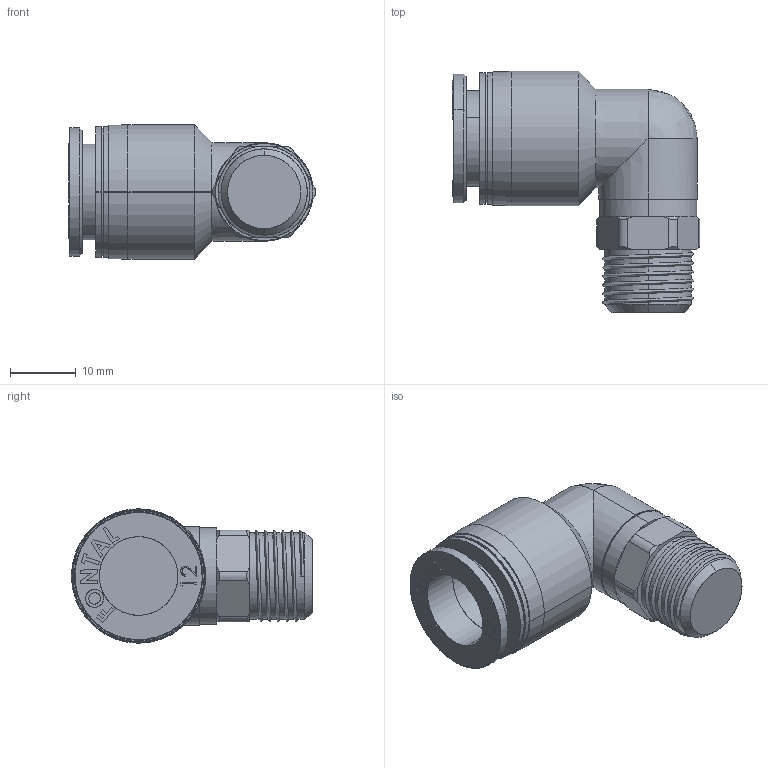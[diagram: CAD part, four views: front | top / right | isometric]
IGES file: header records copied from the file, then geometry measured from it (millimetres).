
Start section: SolidWorks IGES file using analytic representation for surfaces
Global section: file name: D:\Custom\3D繪製\ADDITIONAL\FPL\FPL12-02.IGS,1; native system: 5HSolidWorks 2014; preprocessor: SolidWorks 2014; author: Chieh_Lu; date: 160115.050211; units: millimetre
Bounding box: 37.7 x 36.79 x 20.5 mm (x, y, z)
Surface area: 5298.9 mm2 (no closed solid volume)
Topology: 0 solids, 0 shells, 179 faces, 2056 edges, 2054 vertices
Faces by surface type: bspline 115, revolution 64
